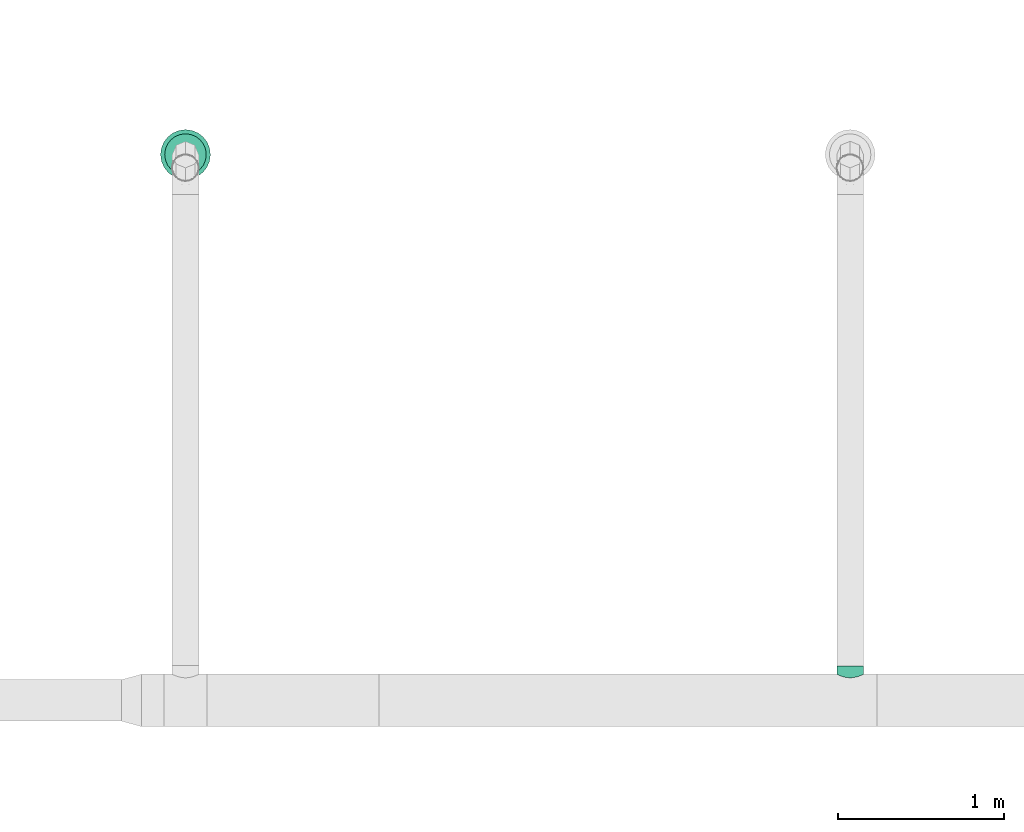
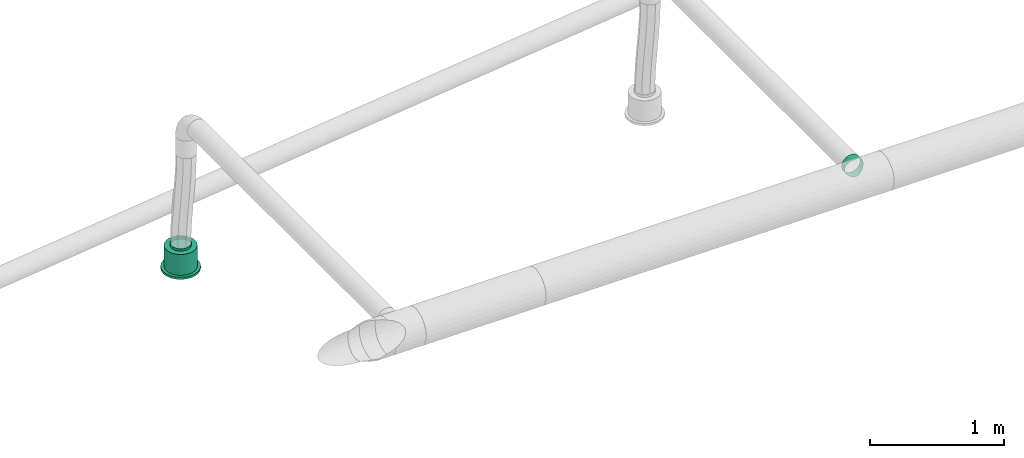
# One storey, part 48 of 374: 1 flow segment, 1 flow terminal.
"""IFC2X3 building model written with IfcOpenShell, lengths in metres."""

from ifc_helpers import new_model, si_unit, direction, origin, place, context, subcontext, project, spatial, open_shell, surface_model, source, transform, mapped, element, save


model = new_model("IFC2X3")

# Units and contexts
model_context = context("Model", 3, precision=1e-05, world=origin(), true_north=direction((-0.4480736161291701, 0.8939966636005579)))
body_context = subcontext(model_context, "Body", "Model", "MODEL_VIEW")
ifc_project = project(units=[si_unit("LENGTHUNIT", "METRE"), si_unit("AREAUNIT", "SQUARE_METRE"), si_unit("VOLUMEUNIT", "CUBIC_METRE"), si_unit("PLANEANGLEUNIT", "RADIAN"), si_unit("THERMODYNAMICTEMPERATUREUNIT", "KELVIN"), si_unit("MASSUNIT", "GRAM", prefix="KILO"), si_unit("TIMEUNIT", "SECOND")], contexts=[model_context])

# Site, building, storey
site_placement = place(None, origin())
site = spatial("IfcSite", under=ifc_project, at=site_placement, Name="Site 1", CompositionType="ELEMENT")
building_placement = place(site_placement, origin())
building = spatial("IfcBuilding", under=site, at=building_placement, Name="Undefined", CompositionType="ELEMENT")
storey_placement = place(building_placement, origin())
storey = spatial("IfcBuildingStorey", under=building, at=storey_placement, Name="Rez de chauss\x8ee", CompositionType="ELEMENT", Elevation=0.0)

# Flow terminal
shared_shape_1 = source(origin(), body_context, "Body", "SurfaceModel", [
    surface_model("IfcFaceBasedSurfaceModel", [(0.0, 0.0, 0.0), (0.03915785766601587, 0.0, 0.0), (0.03915785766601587, 0.020000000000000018, 0.0), (3.552713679e-15, 0.020000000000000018, 0.0), (0.07698144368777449, 0.0, -0.010134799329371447), (0.07698144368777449, 0.020000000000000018, -0.010134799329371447), (0.11089314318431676, 0.0, -0.02971372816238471), (0.11089314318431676, 0.020000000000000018, -0.02971372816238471), (0.13858192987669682, 0.0, -0.05740251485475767), (0.13858192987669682, 0.020000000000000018, -0.05740251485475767), (0.15816085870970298, 0.0, -0.09131421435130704), (0.15816085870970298, 0.020000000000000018, -0.09131421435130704), (0.16829565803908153, 0.0, -0.12913780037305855), (0.16829565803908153, 0.020000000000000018, -0.12913780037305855), (0.16829565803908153, 0.0, -0.16829565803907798), (0.16829565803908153, 0.020000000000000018, -0.16829565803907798), (0.15816085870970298, 0.0, -0.20611924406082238), (0.15816085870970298, 0.020000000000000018, -0.20611924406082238), (0.13858192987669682, 0.0, -0.24003094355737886), (0.13858192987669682, 0.020000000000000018, -0.24003094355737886), (0.11089314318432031, 0.0, -0.2677197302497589), (0.11089314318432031, 0.020000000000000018, -0.2677197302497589), (0.07698144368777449, 0.0, -0.2872986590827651), (0.07698144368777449, 0.020000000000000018, -0.2872986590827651), (0.039157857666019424, 0.0, -0.29743345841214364), (0.039157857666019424, 0.020000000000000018, -0.29743345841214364), (3.552713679e-15, 0.0, -0.29743345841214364), (3.552713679e-15, 0.020000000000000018, -0.29743345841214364), (-0.03782358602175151, 0.0, -0.2872986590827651), (-0.03782358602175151, 0.020000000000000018, -0.2872986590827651), (-0.07173528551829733, 0.0, -0.2677197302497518), (-0.07173528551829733, 0.020000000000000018, -0.2677197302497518), (-0.0994240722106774, 0.0, -0.24003094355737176), (-0.0994240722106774, 0.020000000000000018, -0.24003094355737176), (-0.11900300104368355, 0.0, -0.2061192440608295), (-0.11900300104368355, 0.020000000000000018, -0.2061192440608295), (-0.1291378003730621, 0.0, -0.16829565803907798), (-0.1291378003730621, 0.020000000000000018, -0.16829565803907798), (-0.1291378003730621, 0.0, -0.12913780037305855), (-0.1291378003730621, 0.020000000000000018, -0.12913780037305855), (-0.11900300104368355, 0.0, -0.09131421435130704), (-0.11900300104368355, 0.020000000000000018, -0.09131421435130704), (-0.0994240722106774, 0.0, -0.05740251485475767), (-0.0994240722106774, 0.020000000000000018, -0.05740251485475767), (-0.07173528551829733, 0.0, -0.029713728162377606), (-0.07173528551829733, 0.020000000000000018, -0.029713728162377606), (-0.03782358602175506, 0.0, -0.010134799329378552), (-0.03782358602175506, 0.020000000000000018, -0.010134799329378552), (0.019578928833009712, 0.0, -0.14871672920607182), (0.019578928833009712, 0.020000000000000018, -0.14871672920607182), (0.003263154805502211, 0.020000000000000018, -0.02478612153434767), (0.035894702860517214, 0.020000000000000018, -0.02478612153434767), (0.035894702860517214, 0.20999999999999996, -0.02478612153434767), (0.003263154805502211, 0.20999999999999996, -0.02478612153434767), (0.06741435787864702, 0.020000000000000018, -0.033231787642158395), (0.06741435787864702, 0.20999999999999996, -0.033231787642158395), (0.0956741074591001, 0.020000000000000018, -0.04954756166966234), (0.0956741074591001, 0.20999999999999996, -0.04954756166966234), (0.11874809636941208, 0.020000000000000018, -0.07262155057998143), (0.11874809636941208, 0.20999999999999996, -0.07262155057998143), (0.13506387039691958, 0.020000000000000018, -0.10088130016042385), (0.13506387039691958, 0.20999999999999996, -0.10088130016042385), (0.1435095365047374, 0.020000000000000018, -0.13240095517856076), (0.1435095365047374, 0.20999999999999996, -0.13240095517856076), (0.1435095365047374, 0.020000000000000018, -0.16503250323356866), (0.1435095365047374, 0.20999999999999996, -0.16503250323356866), (0.13506387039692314, 0.020000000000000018, -0.19655215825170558), (0.13506387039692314, 0.20999999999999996, -0.19655215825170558), (0.11874809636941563, 0.020000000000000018, -0.2248119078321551), (0.11874809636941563, 0.20999999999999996, -0.2248119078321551), (0.09567410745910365, 0.020000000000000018, -0.24788589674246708), (0.09567410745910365, 0.20999999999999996, -0.24788589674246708), (0.06741435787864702, 0.020000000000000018, -0.26420167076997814), (0.06741435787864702, 0.20999999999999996, -0.26420167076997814), (0.035894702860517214, 0.020000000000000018, -0.27264733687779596), (0.035894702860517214, 0.20999999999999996, -0.27264733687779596), (0.0032631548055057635, 0.020000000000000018, -0.27264733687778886), (0.0032631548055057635, 0.20999999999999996, -0.27264733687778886), (-0.028256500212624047, 0.020000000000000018, -0.26420167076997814), (-0.028256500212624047, 0.20999999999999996, -0.26420167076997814), (-0.05651624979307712, 0.020000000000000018, -0.2478858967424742), (-0.05651624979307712, 0.20999999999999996, -0.2478858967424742), (-0.07959023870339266, 0.020000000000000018, -0.2248119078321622), (-0.07959023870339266, 0.20999999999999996, -0.2248119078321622), (-0.09590601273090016, 0.020000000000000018, -0.19655215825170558), (-0.09590601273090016, 0.20999999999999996, -0.19655215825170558), (-0.10435167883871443, 0.020000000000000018, -0.16503250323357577), (-0.10435167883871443, 0.20999999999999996, -0.16503250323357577), (-0.10435167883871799, 0.020000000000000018, -0.13240095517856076), (-0.10435167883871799, 0.20999999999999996, -0.13240095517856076), (-0.09590601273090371, 0.020000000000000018, -0.10088130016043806), (-0.09590601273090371, 0.20999999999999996, -0.10088130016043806), (-0.07959023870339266, 0.020000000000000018, -0.07262155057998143), (-0.07959023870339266, 0.20999999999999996, -0.07262155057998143), (-0.056516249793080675, 0.020000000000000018, -0.04954756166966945), (-0.056516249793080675, 0.20999999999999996, -0.04954756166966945), (-0.028256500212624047, 0.020000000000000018, -0.033231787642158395), (-0.028256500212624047, 0.20999999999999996, -0.033231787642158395), (0.019578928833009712, 0.20999999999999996, -0.14871672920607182), (0.009136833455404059, 0.20999999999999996, -0.06940114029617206), (0.030021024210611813, 0.20999999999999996, -0.06940114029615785), (0.030021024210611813, 0.22999999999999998, -0.06940114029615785), (0.009136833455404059, 0.22999999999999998, -0.06940114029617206), (0.05019360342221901, 0.20999999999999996, -0.07480636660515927), (0.05019360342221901, 0.22999999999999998, -0.07480636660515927), (0.06827984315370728, 0.20999999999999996, -0.08524846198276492), (0.06827984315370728, 0.22999999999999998, -0.08524846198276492), (0.0830471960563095, 0.20999999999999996, -0.10001581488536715), (0.0830471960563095, 0.22999999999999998, -0.10001581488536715), (0.0934892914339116, 0.20999999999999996, -0.11810205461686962), (0.0934892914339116, 0.22999999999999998, -0.11810205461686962), (0.09889451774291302, 0.20999999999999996, -0.13827463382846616), (0.09889451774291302, 0.22999999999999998, -0.13827463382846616), (0.09889451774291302, 0.20999999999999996, -0.15915882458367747), (0.09889451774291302, 0.22999999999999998, -0.15915882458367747), (0.09348929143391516, 0.20999999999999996, -0.179331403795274), (0.09348929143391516, 0.22999999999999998, -0.179331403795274), (0.0830471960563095, 0.20999999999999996, -0.19741764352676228), (0.0830471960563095, 0.22999999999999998, -0.19741764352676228), (0.06827984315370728, 0.20999999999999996, -0.2121849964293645), (0.06827984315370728, 0.22999999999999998, -0.2121849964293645), (0.05019360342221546, 0.20999999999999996, -0.22262709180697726), (0.05019360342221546, 0.22999999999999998, -0.22262709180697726), (0.030021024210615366, 0.20999999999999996, -0.22803231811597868), (0.030021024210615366, 0.22999999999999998, -0.22803231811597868), (0.009136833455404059, 0.20999999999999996, -0.22803231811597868), (0.009136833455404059, 0.22999999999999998, -0.22803231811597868), (-0.011035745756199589, 0.20999999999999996, -0.22262709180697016), (-0.011035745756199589, 0.22999999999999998, -0.22262709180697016), (-0.0291219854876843, 0.20999999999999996, -0.2121849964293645), (-0.0291219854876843, 0.22999999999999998, -0.2121849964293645), (-0.043889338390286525, 0.20999999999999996, -0.19741764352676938), (-0.043889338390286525, 0.22999999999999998, -0.19741764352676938), (-0.05433143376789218, 0.20999999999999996, -0.17933140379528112), (-0.05433143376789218, 0.22999999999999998, -0.17933140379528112), (-0.05973666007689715, 0.20999999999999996, -0.15915882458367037), (-0.05973666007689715, 0.22999999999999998, -0.15915882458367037), (-0.0597366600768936, 0.20999999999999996, -0.13827463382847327), (-0.0597366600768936, 0.22999999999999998, -0.13827463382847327), (-0.05433143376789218, 0.20999999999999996, -0.11810205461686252), (-0.05433143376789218, 0.22999999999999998, -0.11810205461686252), (-0.043889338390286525, 0.20999999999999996, -0.10001581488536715), (-0.043889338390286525, 0.22999999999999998, -0.10001581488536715), (-0.02912198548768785, 0.20999999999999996, -0.08524846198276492), (-0.02912198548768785, 0.22999999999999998, -0.08524846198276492), (-0.011035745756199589, 0.20999999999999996, -0.07480636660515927), (-0.011035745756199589, 0.22999999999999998, -0.07480636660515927)], [open_shell([[[0, 1, 2, 3]], [[1, 4, 5, 2]], [[4, 6, 7, 5]], [[6, 8, 9, 7]], [[8, 10, 11, 9]], [[10, 12, 13, 11]], [[12, 14, 15, 13]], [[14, 16, 17, 15]], [[16, 18, 19, 17]], [[18, 20, 21, 19]], [[20, 22, 23, 21]], [[22, 24, 25, 23]], [[24, 26, 27, 25]], [[26, 28, 29, 27]], [[28, 30, 31, 29]], [[30, 32, 33, 31]], [[32, 34, 35, 33]], [[34, 36, 37, 35]], [[36, 38, 39, 37]], [[38, 40, 41, 39]], [[40, 42, 43, 41]], [[42, 44, 45, 43]], [[44, 46, 47, 45]], [[46, 0, 3, 47]], [[48, 1, 0]], [[48, 4, 1]], [[48, 6, 4]], [[48, 8, 6]], [[48, 10, 8]], [[48, 12, 10]], [[48, 14, 12]], [[48, 16, 14]], [[48, 18, 16]], [[48, 20, 18]], [[48, 22, 20]], [[48, 24, 22]], [[48, 26, 24]], [[48, 28, 26]], [[48, 30, 28]], [[48, 32, 30]], [[48, 34, 32]], [[48, 36, 34]], [[48, 38, 36]], [[48, 40, 38]], [[48, 42, 40]], [[48, 44, 42]], [[48, 46, 44]], [[48, 0, 46]], [[49, 47, 3]], [[49, 45, 47]], [[49, 43, 45]], [[49, 41, 43]], [[49, 39, 41]], [[49, 37, 39]], [[49, 35, 37]], [[49, 33, 35]], [[49, 31, 33]], [[49, 29, 31]], [[49, 27, 29]], [[49, 25, 27]], [[49, 23, 25]], [[49, 21, 23]], [[49, 19, 21]], [[49, 17, 19]], [[49, 15, 17]], [[49, 13, 15]], [[49, 11, 13]], [[49, 9, 11]], [[49, 7, 9]], [[49, 5, 7]], [[49, 2, 5]], [[49, 3, 2]], [[50, 51, 52, 53]], [[51, 54, 55, 52]], [[54, 56, 57, 55]], [[56, 58, 59, 57]], [[58, 60, 61, 59]], [[60, 62, 63, 61]], [[62, 64, 65, 63]], [[64, 66, 67, 65]], [[66, 68, 69, 67]], [[68, 70, 71, 69]], [[70, 72, 73, 71]], [[72, 74, 75, 73]], [[74, 76, 77, 75]], [[76, 78, 79, 77]], [[78, 80, 81, 79]], [[80, 82, 83, 81]], [[82, 84, 85, 83]], [[84, 86, 87, 85]], [[86, 88, 89, 87]], [[88, 90, 91, 89]], [[90, 92, 93, 91]], [[92, 94, 95, 93]], [[94, 96, 97, 95]], [[96, 50, 53, 97]], [[49, 51, 50]], [[49, 54, 51]], [[49, 56, 54]], [[49, 58, 56]], [[49, 60, 58]], [[49, 62, 60]], [[49, 64, 62]], [[49, 66, 64]], [[49, 68, 66]], [[49, 70, 68]], [[49, 72, 70]], [[49, 74, 72]], [[49, 76, 74]], [[49, 78, 76]], [[49, 80, 78]], [[49, 82, 80]], [[49, 84, 82]], [[49, 86, 84]], [[49, 88, 86]], [[49, 90, 88]], [[49, 92, 90]], [[49, 94, 92]], [[49, 96, 94]], [[49, 50, 96]], [[98, 97, 53]], [[98, 95, 97]], [[98, 93, 95]], [[98, 91, 93]], [[98, 89, 91]], [[98, 87, 89]], [[98, 85, 87]], [[98, 83, 85]], [[98, 81, 83]], [[98, 79, 81]], [[98, 77, 79]], [[98, 75, 77]], [[98, 73, 75]], [[98, 71, 73]], [[98, 69, 71]], [[98, 67, 69]], [[98, 65, 67]], [[98, 63, 65]], [[98, 61, 63]], [[98, 59, 61]], [[98, 57, 59]], [[98, 55, 57]], [[98, 52, 55]], [[98, 53, 52]], [[99, 100, 101, 102]], [[100, 103, 104, 101]], [[103, 105, 106, 104]], [[105, 107, 108, 106]], [[107, 109, 110, 108]], [[109, 111, 112, 110]], [[111, 113, 114, 112]], [[113, 115, 116, 114]], [[115, 117, 118, 116]], [[117, 119, 120, 118]], [[119, 121, 122, 120]], [[121, 123, 124, 122]], [[123, 125, 126, 124]], [[125, 127, 128, 126]], [[127, 129, 130, 128]], [[129, 131, 132, 130]], [[131, 133, 134, 132]], [[133, 135, 136, 134]], [[135, 137, 138, 136]], [[137, 139, 140, 138]], [[139, 141, 142, 140]], [[141, 143, 144, 142]], [[143, 145, 146, 144]], [[145, 99, 102, 146]]])]),
])
flow_terminal_placement = place(storey_placement, origin())
element("IfcFlowTerminal", 1, at=flow_terminal_placement, inside=storey, Name="Air diffuseur - bouche", ObjectType="Air diffuseur - bouche", context=body_context, shape_type="MappedRepresentation", body=[
    mapped(shared_shape_1, transform((14.290000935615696, 25.87999877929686, 2.38), x_axis=(0.9914448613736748, 0.13052619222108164, 0.0), y_axis=(0.0, 0.0, 1.0), z_axis=(0.13052619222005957, -0.9914448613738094, 0.0))),
])

# Flow segment
shared_shape_2 = source(origin(), body_context, "Body", "SurfaceModel", [
    surface_model("IfcFaceBasedSurfaceModel", [(0.0013669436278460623, 0.02088419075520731, 0.0), (0.0, 0.0, 0.0), (0.05136694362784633, -8.8817842e-16, 0.0), (0.05136694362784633, 0.02088419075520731, 0.0), (-0.0037970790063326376, -0.020172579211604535, -0.005405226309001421), (0.05136694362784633, -0.020172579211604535, -0.005405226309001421), (-0.009142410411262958, -0.03825881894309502, -0.015847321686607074), (0.05136694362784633, -0.03825881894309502, -0.015847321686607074), (-0.014689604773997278, -0.05302617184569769, -0.030614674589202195), (0.05136694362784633, -0.05302617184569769, -0.030614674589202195), (-0.018892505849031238, -0.06346826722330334, -0.04870091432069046), (0.05136694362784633, -0.06346826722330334, -0.04870091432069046), (-0.020463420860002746, -0.06887349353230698, -0.0688734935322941), (0.05136694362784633, -0.06887349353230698, -0.0688734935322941), (-0.018892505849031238, -0.06887349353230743, -0.08975768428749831), (0.05136694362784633, -0.06887349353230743, -0.08975768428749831), (-0.014689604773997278, -0.06346826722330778, -0.10993026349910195), (0.05136694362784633, -0.06346826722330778, -0.10993026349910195), (-0.009142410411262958, -0.05302617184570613, -0.12801650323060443), (0.05136694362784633, -0.05302617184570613, -0.12801650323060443), (-0.0037970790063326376, -0.03825881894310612, -0.14278385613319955), (0.05136694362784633, -0.03825881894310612, -0.14278385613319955), (0.0, -0.020172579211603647, -0.15322595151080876), (0.05136694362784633, -0.020172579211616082, -0.1532259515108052), (0.0013669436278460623, -1.3766765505e-14, -0.15863117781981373), (0.05136694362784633, -1.3766765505e-14, -0.15863117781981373), (0.0, 0.020884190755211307, -0.15863117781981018), (0.05136694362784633, 0.02088419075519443, -0.15863117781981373), (-0.0037970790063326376, 0.041056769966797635, -0.1532259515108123), (0.05136694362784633, 0.041056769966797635, -0.1532259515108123), (-0.009142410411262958, 0.05914300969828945, -0.14278385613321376), (0.05136694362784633, 0.05914300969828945, -0.14278385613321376), (-0.014689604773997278, 0.07391036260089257, -0.12801650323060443), (0.05136694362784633, 0.07391036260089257, -0.12801650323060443), (-0.018892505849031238, 0.08435245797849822, -0.10993026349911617), (0.05136694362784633, 0.08435245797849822, -0.10993026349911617), (-0.020463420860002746, 0.08975768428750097, -0.08975768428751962), (0.05136694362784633, 0.08975768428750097, -0.08975768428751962), (-0.018892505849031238, 0.0897576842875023, -0.06887349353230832), (0.05136694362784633, 0.0897576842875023, -0.06887349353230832), (-0.014689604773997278, 0.08435245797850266, -0.04870091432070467), (0.05136694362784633, 0.08435245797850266, -0.04870091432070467), (-0.009142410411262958, 0.07391036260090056, -0.030614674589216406), (0.05136694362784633, 0.07391036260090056, -0.030614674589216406), (-0.0037970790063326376, 0.05914300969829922, -0.01584732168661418), (0.05136694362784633, 0.05914300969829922, -0.01584732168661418), (0.0, 0.04105676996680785, -0.005405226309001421), (0.05136694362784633, 0.04105676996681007, -0.005405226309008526)], [open_shell([[[0, 1, 2, 3]], [[1, 4, 5, 2]], [[4, 6, 7, 5]], [[6, 8, 9, 7]], [[8, 10, 11, 9]], [[10, 12, 13, 11]], [[12, 14, 15, 13]], [[14, 16, 17, 15]], [[16, 18, 19, 17]], [[18, 20, 21, 19]], [[20, 22, 23, 21]], [[22, 24, 25, 23]], [[24, 26, 27, 25]], [[26, 28, 29, 27]], [[28, 30, 31, 29]], [[30, 32, 33, 31]], [[32, 34, 35, 33]], [[34, 36, 37, 35]], [[36, 38, 39, 37]], [[38, 40, 41, 39]], [[40, 42, 43, 41]], [[42, 44, 45, 43]], [[44, 46, 47, 45]], [[46, 0, 3, 47]]])]),
])
flow_segment_placement = place(storey_placement, origin())
element("IfcFlowSegment", 2, at=flow_segment_placement, inside=storey, Name="Piquage équerre circulaire", ObjectType="Piquage équerre circulaire", context=body_context, shape_type="MappedRepresentation", body=[
    mapped(shared_shape_2, transform((18.212726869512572, 22.901062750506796, 3.820705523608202), x_axis=(0.0, 1.0, 0.0), y_axis=(-0.13052619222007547, 0.0, -0.9914448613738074), z_axis=(-0.9914448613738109, 0.0, 0.1305261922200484))),
])

save(model, "model.ifc")
